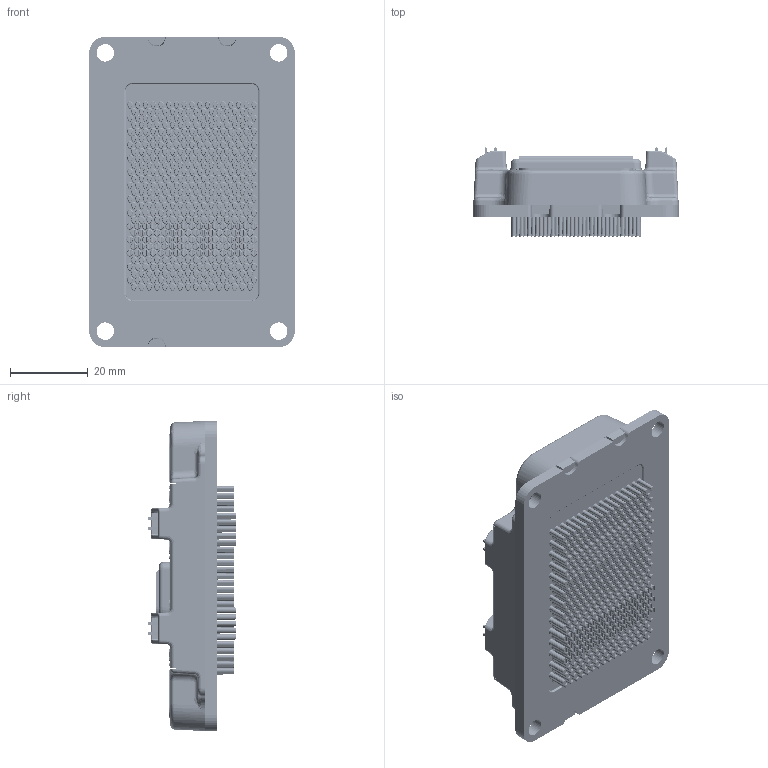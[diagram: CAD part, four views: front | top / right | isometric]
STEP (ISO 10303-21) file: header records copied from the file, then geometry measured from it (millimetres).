
FILE_DESCRIPTION (( 'STEP AP214' ), '1' );
FILE_NAME ('APM-011-019 CAB525F12XM3 (External Geometry).STEP', '2024-08-01T15:57:19', ( '' ), ( '' ), 'SwSTEP 2.0', 'SolidWorks 2024', '' );
FILE_SCHEMA (( 'AUTOMOTIVE_DESIGN' ));
Length unit declared in the file: millimetre
Products named in the file (1): APM-011-019 CAB525F12XM3 (External Geometry)
Bounding box: 53 x 22.89 x 80 mm (x, y, z)
Volume: 31975.4 mm3; surface area: 45325.1 mm2
Topology: 13 solids, 13 shells, 8605 faces, 20980 edges, 12913 vertices
Faces by surface type: plane 2928, cylinder 2020, cone 1561, torus 1502, bspline 570, sphere 24
Entity records: 292279 total; most frequent: CARTESIAN_POINT 95731, ORIENTED_EDGE 41932, DIRECTION 40266, EDGE_CURVE 20966, AXIS2_PLACEMENT_3D 15286, VERTEX_POINT 12912, VECTOR 9694, LINE 9694
